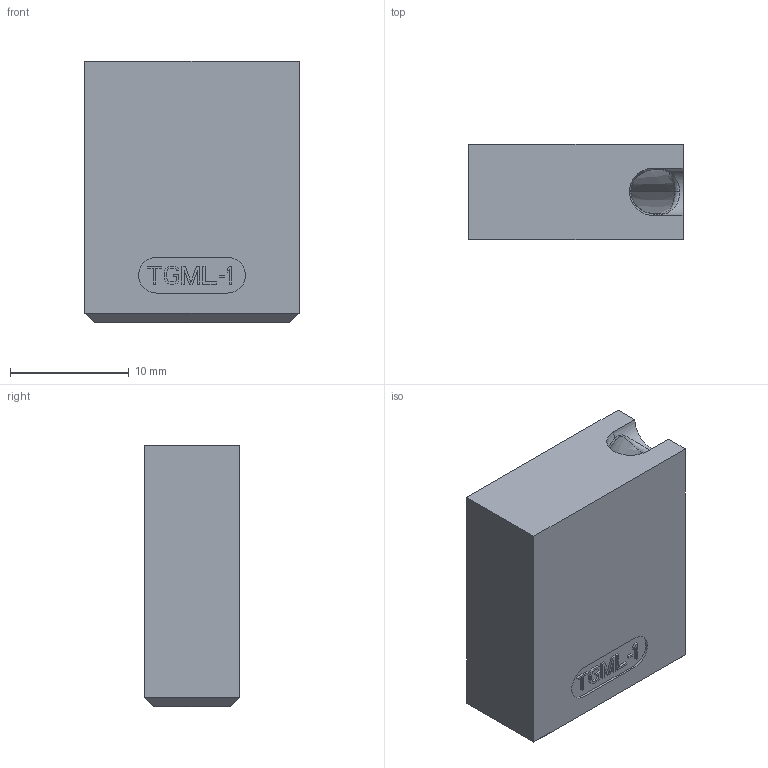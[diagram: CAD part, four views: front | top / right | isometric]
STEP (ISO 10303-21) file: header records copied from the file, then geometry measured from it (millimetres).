
FILE_DESCRIPTION((''),'2;1');
FILE_NAME('TGML-1','2018-10-08T',('gsawatzky'),(''),'CREO PARAMETRIC BY PTC INC, 2016260','CREO PARAMETRIC BY PTC INC, 2016260','');
FILE_SCHEMA(('AUTOMOTIVE_DESIGN { 1 0 10303 214 1 1 1 1 }'));
Length unit declared in the file: millimetre
Products named in the file (1): TGML-1
Bounding box: 18 x 8 x 22 mm (x, y, z)
Volume: 2883.2 mm3; surface area: 1820.2 mm2
Topology: 1 solids, 4 shells, 163 faces, 434 edges, 277 vertices
Faces by surface type: plane 123, bspline 14, cylinder 9, sphere 7, cone 4, revolution 2, extrusion 2, torus 2
Entity records: 7584 total; most frequent: CARTESIAN_POINT 2183, ORIENTED_EDGE 842, DIRECTION 750, PRESENTATION_STYLE_ASSIGNMENT 429, STYLED_ITEM 429, CURVE_STYLE 425, EDGE_CURVE 425, VECTOR 350
